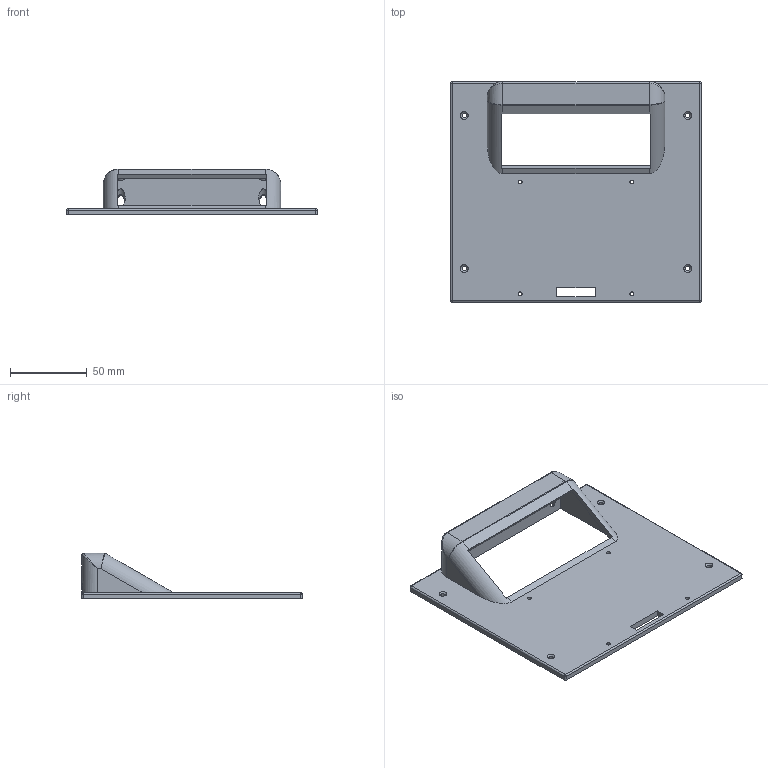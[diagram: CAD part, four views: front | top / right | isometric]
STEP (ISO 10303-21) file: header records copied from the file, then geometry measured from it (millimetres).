
FILE_DESCRIPTION(/* description */ (''),/* implementation_level */ '2;1');
FILE_NAME(/* name */ 'V:\Flow\Inventor\Kontinuierliche Spritzenpumpe\Deckel.stp',/* time_stamp */ '2019-12-20T10:25:32+01:00',/* author */ ('JN'),/* organization */ (''),/* preprocessor_version */ 'ST-DEVELOPER v17',/* originating_system */ 'Autodesk Inventor 2018',/* authorisation */ '');
FILE_SCHEMA (('AUTOMOTIVE_DESIGN { 1 0 10303 214 3 1 1 }'));
Length unit declared in the file: millimetre
Products named in the file (1): Deckel
Bounding box: 164 x 144 x 29.98 mm (x, y, z)
Volume: 94615 mm3; surface area: 52970.7 mm2
Topology: 1 solids, 1 shells, 89 faces, 255 edges, 162 vertices
Faces by surface type: cylinder 35, plane 28, cone 12, bspline 10, sphere 4
Full cylindrical faces by diameter (mm): 2.5 x8, 3 x4, 6 x2
Entity records: 3470 total; most frequent: CARTESIAN_POINT 1052, DIRECTION 507, ORIENTED_EDGE 494, EDGE_CURVE 247, AXIS2_PLACEMENT_3D 197, VERTEX_POINT 162, EDGE_LOOP 115, LINE 113
